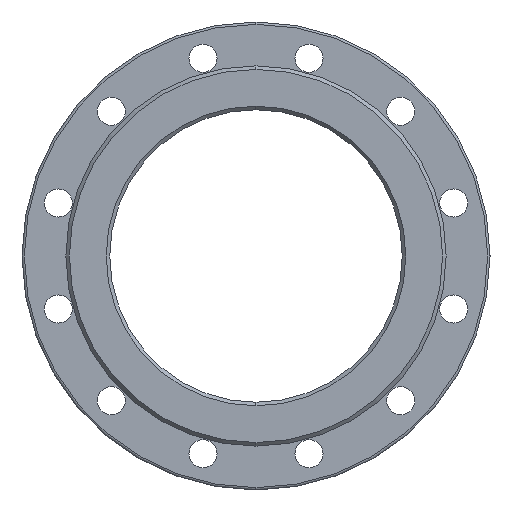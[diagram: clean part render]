
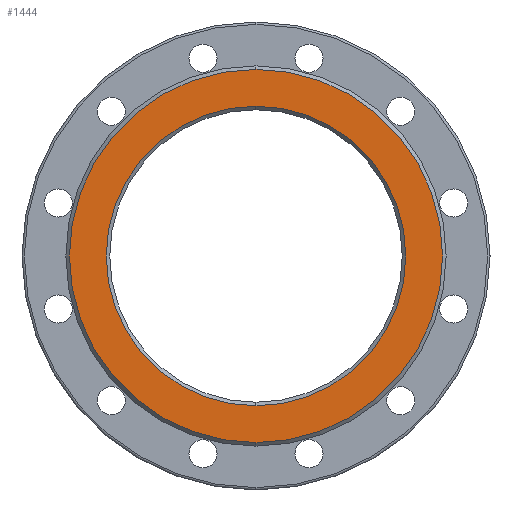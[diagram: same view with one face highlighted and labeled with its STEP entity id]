
A CAD part, left-side view. The second image highlights one B-rep face of the part: STEP entity #1444.
In plain terms, the highlighted planar face has unit normal (-1, 0, 0).
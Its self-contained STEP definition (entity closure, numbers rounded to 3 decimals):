
#395 = VERTEX_POINT ( 'NONE', #1438 ) ;
#487 = CARTESIAN_POINT ( 'NONE',  ( -350., 0., 0. ) ) ;
#661 = CARTESIAN_POINT ( 'NONE',  ( -350., 0., 0. ) ) ;
#713 = CIRCLE ( 'NONE', #2442, 128. ) ;
#753 = EDGE_LOOP ( 'NONE', ( #1213, #821 ) ) ;
#780 = EDGE_CURVE ( 'Defeatured_0_3+Defeatured_0_24+Defeatured_0_24+Defeatured_0_24', #2005, #4468, #713, .T. ) ;
#804 = CARTESIAN_POINT ( 'NONE',  ( -350., 0., 159.5 ) ) ;
#811 = DIRECTION ( 'NONE',  ( 0., 0., -1. ) ) ;
#821 = ORIENTED_EDGE ( 'NONE', *, *, #780, .T. ) ;
#1152 = VERTEX_POINT ( 'NONE', #804 ) ;
#1213 = ORIENTED_EDGE ( 'NONE', *, *, #2922, .T. ) ;
#1249 = CIRCLE ( 'NONE', #2278, 159.5 ) ;
#1438 = CARTESIAN_POINT ( 'NONE',  ( -350., 0., -159.5 ) ) ;
#1444 = ADVANCED_FACE ( 'Defeatured_0_3', ( #2181, #4835 ), #1844, .F. ) ;
#1575 = AXIS2_PLACEMENT_3D ( 'NONE', #2625, #4604, #2320 ) ;
#1844 = PLANE ( 'NONE',  #3863 ) ;
#1850 = DIRECTION ( 'NONE',  ( -1., 0., 0. ) ) ;
#2005 = VERTEX_POINT ( 'NONE', #4524 ) ;
#2041 = CIRCLE ( 'NONE', #3310, 159.5 ) ;
#2162 = DIRECTION ( 'NONE',  ( 0., 0., 1. ) ) ;
#2181 = FACE_BOUND ( 'NONE', #753, .T. ) ;
#2252 = CARTESIAN_POINT ( 'NONE',  ( -350., 0., 128. ) ) ;
#2278 = AXIS2_PLACEMENT_3D ( 'NONE', #661, #1850, #2162 ) ;
#2320 = DIRECTION ( 'NONE',  ( 0., 0., -1. ) ) ;
#2442 = AXIS2_PLACEMENT_3D ( 'NONE', #487, #4552, #811 ) ;
#2625 = CARTESIAN_POINT ( 'NONE',  ( -350., 0., 0. ) ) ;
#2835 = ORIENTED_EDGE ( 'NONE', *, *, #3278, .T. ) ;
#2842 = CARTESIAN_POINT ( 'NONE',  ( -350., 125., 0. ) ) ;
#2922 = EDGE_CURVE ( 'Defeatured_0_3+Defeatured_0_24+Defeatured_0_24+Defeatured_0_24', #4468, #2005, #2998, .T. ) ;
#2926 = DIRECTION ( 'NONE',  ( 1., 0., 0. ) ) ;
#2998 = CIRCLE ( 'NONE', #1575, 128. ) ;
#3122 = DIRECTION ( 'NONE',  ( -1., 0., 0. ) ) ;
#3278 = EDGE_CURVE ( 'Defeatured_0_3+Defeatured_0_4+Defeatured_0_4+Defeatured_0_4', #395, #1152, #1249, .T. ) ;
#3310 = AXIS2_PLACEMENT_3D ( 'NONE', #3492, #3122, #4195 ) ;
#3322 = DIRECTION ( 'NONE',  ( 0., 0., -1. ) ) ;
#3492 = CARTESIAN_POINT ( 'NONE',  ( -350., 0., 0. ) ) ;
#3689 = EDGE_CURVE ( 'Defeatured_0_3+Defeatured_0_4+Defeatured_0_4+Defeatured_0_4', #1152, #395, #2041, .T. ) ;
#3863 = AXIS2_PLACEMENT_3D ( 'NONE', #2842, #2926, #3322 ) ;
#3881 = ORIENTED_EDGE ( 'NONE', *, *, #3689, .T. ) ;
#4195 = DIRECTION ( 'NONE',  ( 0., 0., 1. ) ) ;
#4468 = VERTEX_POINT ( 'NONE', #2252 ) ;
#4524 = CARTESIAN_POINT ( 'NONE',  ( -350., 0., -128. ) ) ;
#4552 = DIRECTION ( 'NONE',  ( 1., 0., 0. ) ) ;
#4604 = DIRECTION ( 'NONE',  ( 1., 0., 0. ) ) ;
#4776 = EDGE_LOOP ( 'NONE', ( #2835, #3881 ) ) ;
#4835 = FACE_OUTER_BOUND ( 'NONE', #4776, .T. ) ;
